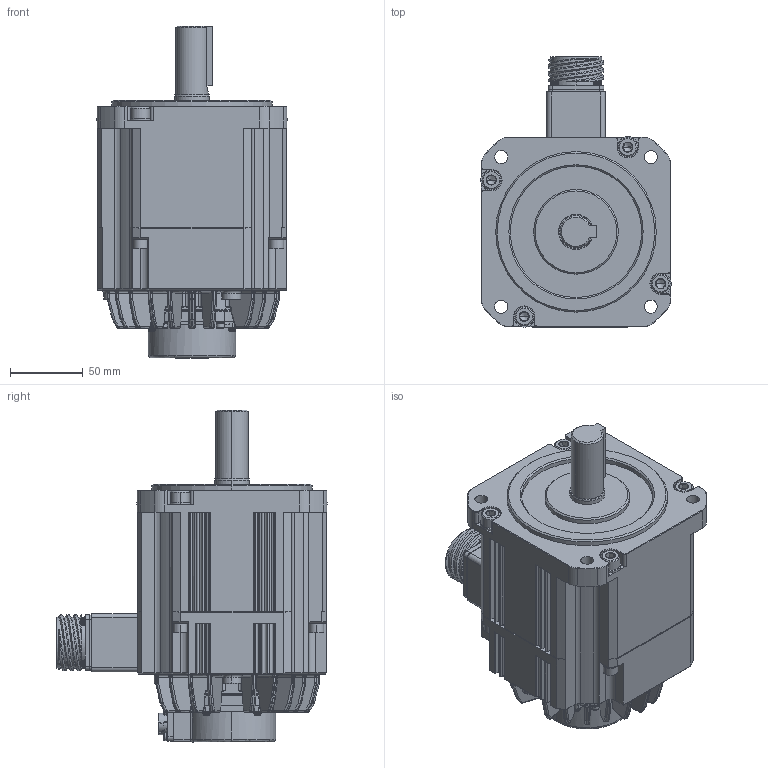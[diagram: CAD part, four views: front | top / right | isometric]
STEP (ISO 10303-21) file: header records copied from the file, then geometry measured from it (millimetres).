
FILE_DESCRIPTION (( 'STEP AP203' ), '1' );
FILE_NAME ('TSM3506N2374E721‘•”z.STEP', '2018-06-26T05:29:11', ( '' ), ( '' ), 'SwSTEP 2.0', 'SolidWorks 2017', '' );
FILE_SCHEMA (( 'CONFIG_CONTROL_DESIGN' ));
Products named in the file (2): Part11^TSM3506N2374E721装配; TSM3506N2374E721装配
Assembly tree (1 placements, depth 2):
  TSM3506N2374E721装配
    Part11^TSM3506N2374E721装配
Bounding box: 130.5 x 185.2 x 227.5 mm (x, y, z)
Volume: 2150107.6 mm3; surface area: 164827.1 mm2
Topology: 1 solids, 25 shells, 3270 faces, 8279 edges, 5051 vertices
Faces by surface type: plane 1063, cylinder 1032, bspline 804, cone 261, sphere 65, torus 45
Entity records: 160437 total; most frequent: CARTESIAN_POINT 89129, ORIENTED_EDGE 16280, DIRECTION 12578, EDGE_CURVE 8140, VERTEX_POINT 5029, AXIS2_PLACEMENT_3D 4429, VECTOR 3720, LINE 3720
